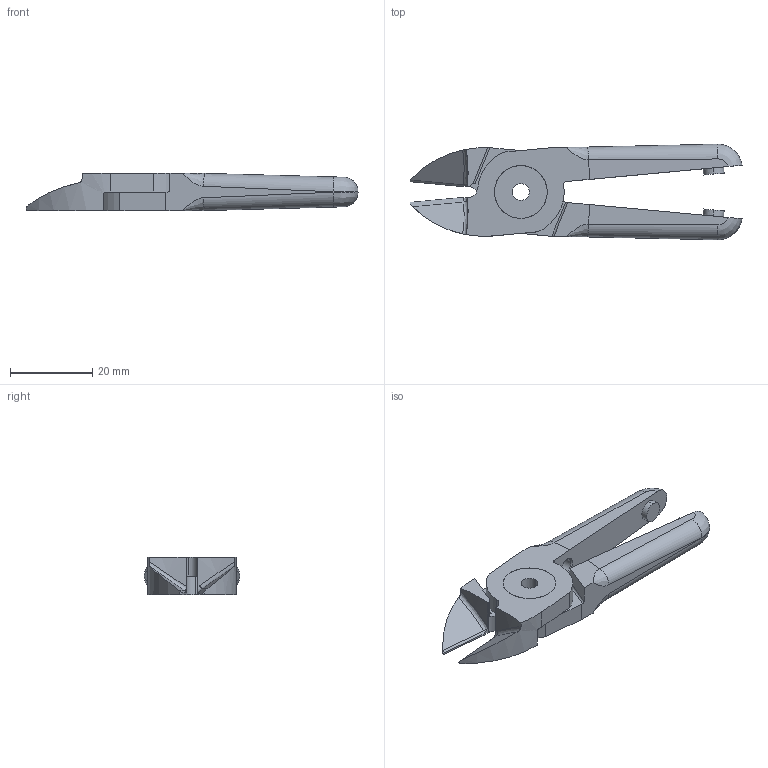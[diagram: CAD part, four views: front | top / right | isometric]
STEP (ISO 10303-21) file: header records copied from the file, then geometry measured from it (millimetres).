
FILE_DESCRIPTION (( 'STEP AP214' ), '1' );
FILE_NAME ('N7BJ.STEP', '2019-11-29T02:31:10', ( '微软用户' ), ( '微软中国' ), 'SwSTEP 2.0', 'SolidWorks 2016', '' );
FILE_SCHEMA (( 'AUTOMOTIVE_DESIGN' ));
Length unit declared in the file: millimetre
Products named in the file (4): BS; N7BJ; BR2; BR1
Assembly tree (3 placements, depth 2):
  N7BJ
    BS
    BR1
    BR2
Bounding box: 80.51 x 23.19 x 9 mm (x, y, z)
Volume: 8658.4 mm3; surface area: 6089.6 mm2
Topology: 3 solids, 3 shells, 117 faces, 309 edges, 192 vertices
Faces by surface type: plane 45, bspline 28, cylinder 26, cone 18
Entity records: 4925 total; most frequent: CARTESIAN_POINT 2193, ORIENTED_EDGE 598, DIRECTION 460, EDGE_CURVE 299, VERTEX_POINT 192, AXIS2_PLACEMENT_3D 158, VECTOR 144, LINE 144
